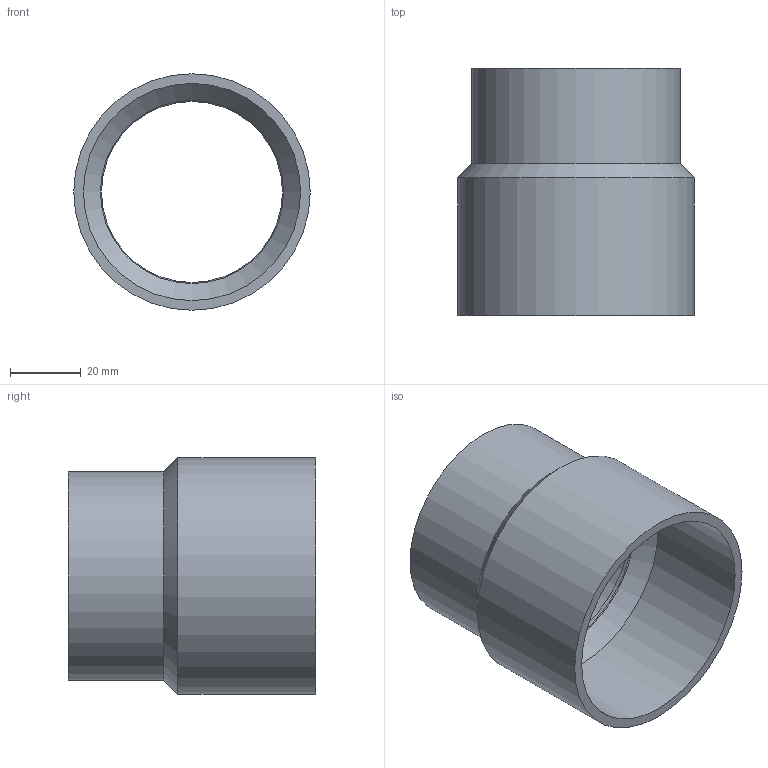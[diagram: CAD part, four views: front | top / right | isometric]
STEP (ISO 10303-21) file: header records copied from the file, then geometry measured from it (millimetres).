
FILE_DESCRIPTION(/* description */ (''),/* implementation_level */ '2;1');
FILE_NAME(/* name */ 'P:\Adapter\A 67a_54i.stp',/* time_stamp */ '2017-10-05T08:12:17+02:00',/* author */ ('neufeld'),/* organization */ (''),/* preprocessor_version */ 'ST-DEVELOPER v16.1',/* originating_system */ 'Autodesk Inventor 2016',/* authorisation */ '');
FILE_SCHEMA (('AUTOMOTIVE_DESIGN { 1 0 10303 214 3 1 1 }'));
Length unit declared in the file: millimetre
Products named in the file (2): A 67a_54i; A 67a_54i_1
Assembly tree (1 placements, depth 2):
  A 67a_54i_1
    A 67a_54i
Bounding box: 67 x 70 x 67 mm (x, y, z)
Volume: 40751.8 mm3; surface area: 28599.4 mm2
Topology: 1 solids, 1 shells, 11 faces, 19 edges, 11 vertices
Faces by surface type: cylinder 5, plane 3, cone 2, torus 1
Full cylindrical faces by diameter (mm): 51.3 x1, 54.3 x1, 59 x1, 61.5 x1, 67 x1
Entity records: 272 total; most frequent: DIRECTION 50, CARTESIAN_POINT 36, AXIS2_PLACEMENT_3D 25, EDGE_LOOP 22, ORIENTED_EDGE 22, FACE_BOUND 11, FACE_OUTER_BOUND 11, CIRCLE 11
